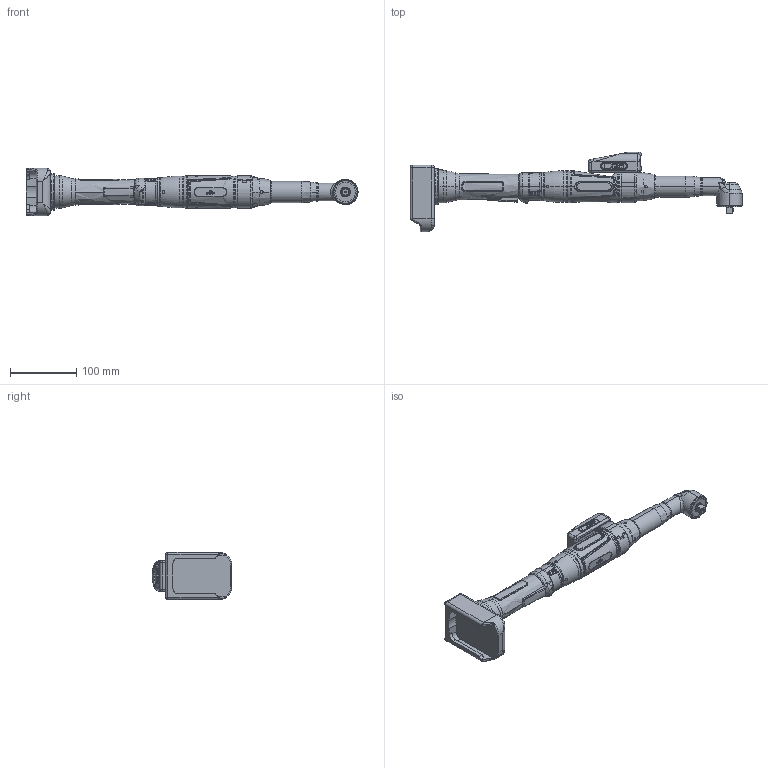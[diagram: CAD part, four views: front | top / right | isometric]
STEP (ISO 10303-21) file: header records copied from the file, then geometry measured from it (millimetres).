
FILE_DESCRIPTION (( 'STEP AP214' ), '1' );
FILE_NAME ('70122806_HSXBW1064WV38DS.STEP', '2026-04-01T06:31:49', ( '' ), ( '' ), 'SwSTEP 2.0', 'SolidWorks 2020', '' );
FILE_SCHEMA (( 'AUTOMOTIVE_DESIGN' ));
Length unit declared in the file: millimetre
Products named in the file (1): 70122806_HSXBW1064WV38DS
Bounding box: 502.9 x 120.8 x 72 mm (x, y, z)
Volume: 859477.8 mm3; surface area: 129682.4 mm2
Topology: 6 solids, 8 shells, 1984 faces, 4945 edges, 3034 vertices
Faces by surface type: cylinder 622, plane 542, bspline 486, torus 186, cone 118, sphere 30
Entity records: 110817 total; most frequent: CARTESIAN_POINT 45452, ORIENTED_EDGE 9818, DIRECTION 8122, EDGE_CURVE 4909, AXIS2_PLACEMENT_3D 3138, VERTEX_POINT 3031, EDGE_LOOP 2100, UNCERTAINTY_MEASURE_WITH_UNIT 1992
